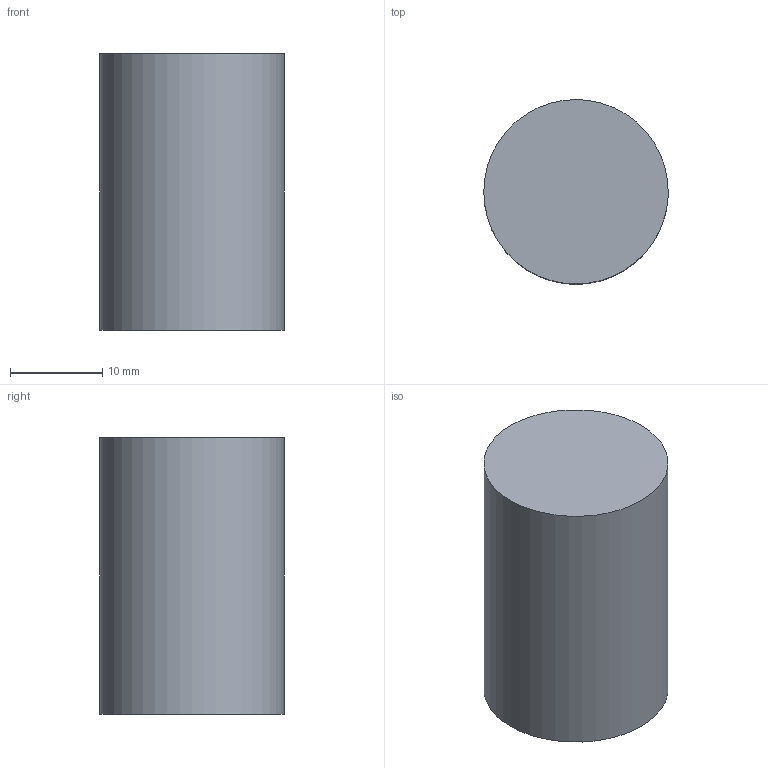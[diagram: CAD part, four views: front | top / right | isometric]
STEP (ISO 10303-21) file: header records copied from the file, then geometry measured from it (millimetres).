
FILE_DESCRIPTION(('step-conformance generated part'),'2;1');
FILE_NAME('cylinder_nurbs.step','2026-10-12T00:00:00',(''),(''),'step-conformance generate','step-conformance generate','');
FILE_SCHEMA(('AUTOMOTIVE_DESIGN { 1 0 10303 214 1 1 1 1 }'));
Length unit declared in the file: millimetre
Products named in the file (1): cylinder_nurbs
Bounding box: 20 x 20 x 30 mm (x, y, z)
Volume: 9499.4 mm3; surface area: 2516.5 mm2
Topology: 1 solids, 1 shells, 3 faces, 3 edges, 2 vertices
Faces by surface type: plane 2, bspline 1
Entity records: 84 total; most frequent: CARTESIAN_POINT 41, DIRECTION 6, ORIENTED_EDGE 4, EDGE_LOOP 4, AXIS2_PLACEMENT_3D 3, FACE_OUTER_BOUND 3, ADVANCED_FACE 3, VERTEX_POINT 2
